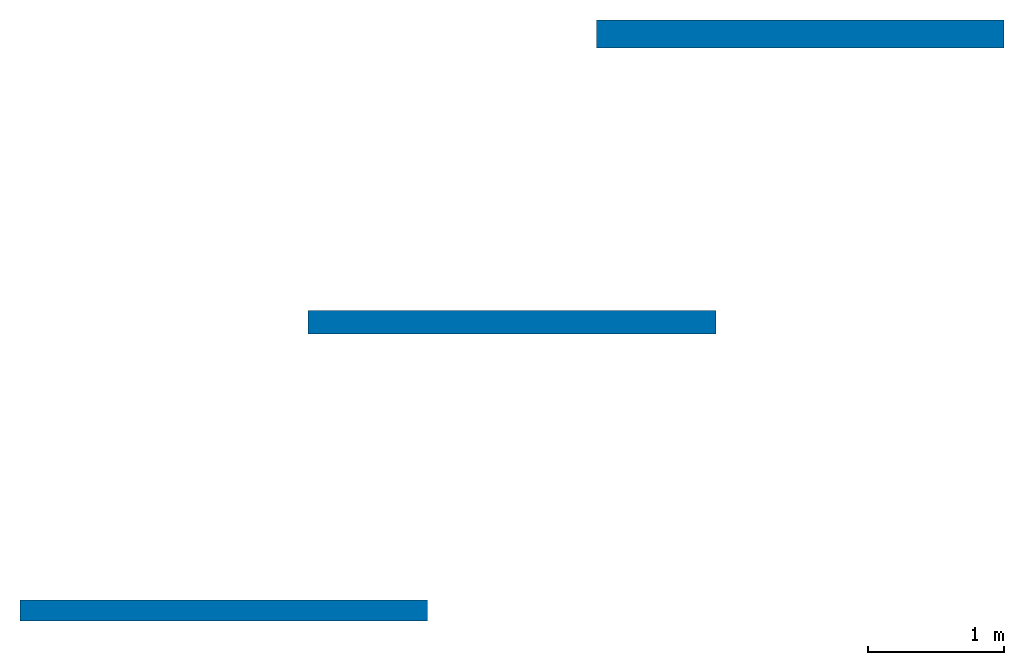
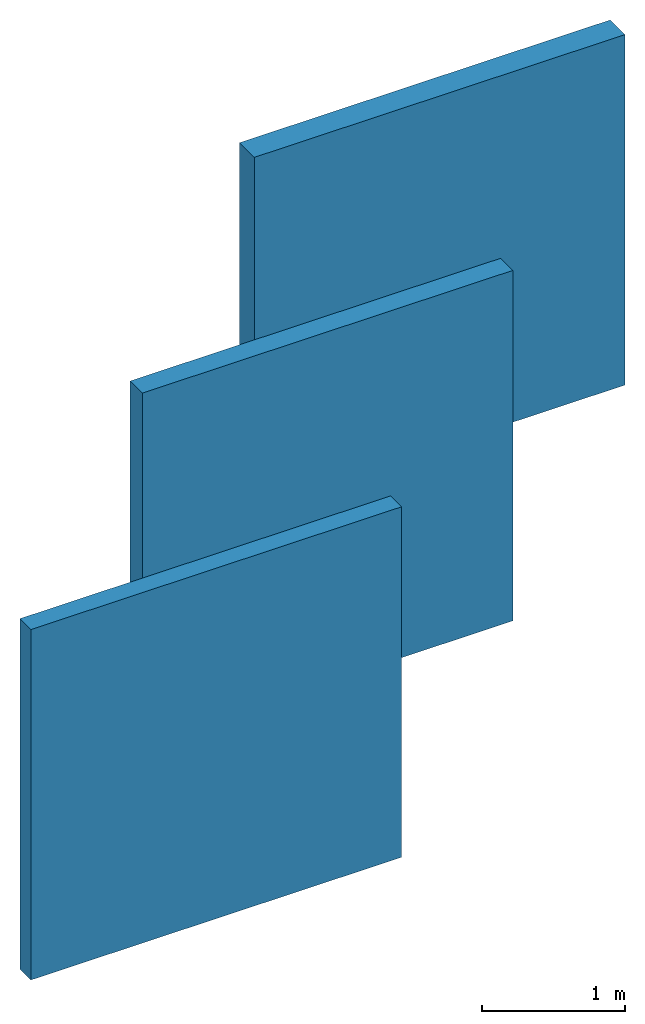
# One storey: 3 walls.
"""IFC2X3 building model written with IfcOpenShell, lengths in millimetres."""

from ifc_helpers import new_model, entity, si_unit, converted_unit, derived_unit, direction, frame, frame_2d, origin, place, context, subcontext, project, spatial, rectangle, extrude, material, layer, layer_set, layer_usage, type_object, element, save


model = new_model("IFC2X3")

# Units and contexts
model_context = context("Model", 3, precision=0.01, world=origin(), true_north=direction((6.12303176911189e-17, 1.0)))
context_of_model = context(None, 3, precision=0.01, world=origin(), true_north=direction((6.12303176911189e-17, 1.0)))
body_context = subcontext(model_context, "Body", "Model", "MODEL_VIEW")
ifc_project = project(units=[si_unit("LENGTHUNIT", "METRE", prefix="MILLI"), si_unit("AREAUNIT", "SQUARE_METRE"), si_unit("VOLUMEUNIT", "CUBIC_METRE"), converted_unit("PLANEANGLEUNIT", "DEGREE", entity("IfcRatioMeasure", 0.0174532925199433), si_unit("PLANEANGLEUNIT", "RADIAN"), dimensions=[0, 0, 0, 0, 0, 0, 0]), si_unit("MASSUNIT", "GRAM", prefix="KILO"), derived_unit("MASSDENSITYUNIT", [(si_unit("MASSUNIT", "GRAM", prefix="KILO"), 1), (si_unit("LENGTHUNIT", "METRE"), -3)]), si_unit("TIMEUNIT", "SECOND"), si_unit("FREQUENCYUNIT", "HERTZ"), si_unit("THERMODYNAMICTEMPERATUREUNIT", "DEGREE_CELSIUS"), derived_unit("THERMALTRANSMITTANCEUNIT", [(si_unit("MASSUNIT", "GRAM", prefix="KILO"), 1), (si_unit("THERMODYNAMICTEMPERATUREUNIT", "KELVIN"), -1), (si_unit("TIMEUNIT", "SECOND"), -3)]), derived_unit("VOLUMETRICFLOWRATEUNIT", [(si_unit("LENGTHUNIT", "METRE"), 3), (si_unit("TIMEUNIT", "SECOND"), -1)]), si_unit("ELECTRICCURRENTUNIT", "AMPERE"), si_unit("ELECTRICVOLTAGEUNIT", "VOLT"), si_unit("POWERUNIT", "WATT"), si_unit("FORCEUNIT", "NEWTON", prefix="KILO"), si_unit("ILLUMINANCEUNIT", "LUX"), si_unit("LUMINOUSFLUXUNIT", "LUMEN"), si_unit("LUMINOUSINTENSITYUNIT", "CANDELA"), derived_unit("USERDEFINED", [(si_unit("MASSUNIT", "GRAM", prefix="KILO"), -1), (si_unit("LENGTHUNIT", "METRE"), -2), (si_unit("TIMEUNIT", "SECOND"), 3), (si_unit("LUMINOUSFLUXUNIT", "LUMEN"), 1)]), derived_unit("LINEARVELOCITYUNIT", [(si_unit("LENGTHUNIT", "METRE"), 1), (si_unit("TIMEUNIT", "SECOND"), -1)]), si_unit("PRESSUREUNIT", "PASCAL"), derived_unit("USERDEFINED", [(si_unit("LENGTHUNIT", "METRE"), -2), (si_unit("MASSUNIT", "GRAM", prefix="KILO"), 1), (si_unit("TIMEUNIT", "SECOND"), -2)])], contexts=[model_context, context_of_model])

# Site, building, storey
site_placement = place(None, origin())
site = spatial("IfcSite", under=ifc_project, at=site_placement, Name="Default", CompositionType="ELEMENT")
building_placement = place(site_placement, origin())
building = spatial("IfcBuilding", under=site, at=building_placement, CompositionType="ELEMENT")
storey_placement = place(building_placement, origin())
storey = spatial("IfcBuildingStorey", under=building, at=storey_placement, Name="Begane grond", CompositionType="ELEMENT", Elevation=0.0)

# Walls
ifc_material = material(Name="Knauf Insulation_inblaaswol Supafil Cavity XL")
ifc_layer_1 = layer(ifc_material, 154.0)
ifc_layer_set_1 = layer_set([ifc_layer_1], Name="Basic Wall:NLRS_22_WA_Supafil Cavity XL_Spouwbreedte_154mm")
ifc_layer_usage_1 = layer_usage(ifc_layer_set_1, "AXIS2", "NEGATIVE", 77.0)
wall_type_1 = type_object("IfcWallType", Name="Basic Wall:NLRS_22_WA_Supafil Cavity XL_Spouwbreedte_154mm", PredefinedType="STANDARD", material=ifc_layer_set_1)
wall_1_placement = place(storey_placement, frame((1593.51620947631, 2170.82294264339, 0.0)))
element("IfcWallStandardCase", 1, at=wall_1_placement, inside=storey, type_object=wall_type_1, material=ifc_layer_usage_1, Name="Basic Wall:NLRS_22_WA_Supafil Cavity XL_Spouwbreedte_154mm:2470", ObjectType="Basic Wall:NLRS_22_WA_Supafil Cavity XL_Spouwbreedte_154mm", context=body_context, shape_type="SweptSolid", body=[
    extrude(rectangle(XDim=3000.0, YDim=154.0, at=frame_2d((1500.0, 0.0), x_axis=(-1.0, 0.0))), origin(), (0.0, 0.0, 1.0), 3000.0),
])
ifc_layer_2 = layer(ifc_material, 171.0)
ifc_layer_set_2 = layer_set([ifc_layer_2], Name="Basic Wall:NLRS_22_WA_Supafil Cavity XL_Spouwbreedte_171mm")
ifc_layer_usage_2 = layer_usage(ifc_layer_set_2, "AXIS2", "NEGATIVE", 85.5)
wall_type_2 = type_object("IfcWallType", Name="Basic Wall:NLRS_22_WA_Supafil Cavity XL_Spouwbreedte_171mm", PredefinedType="STANDARD", material=ifc_layer_set_2)
wall_2_placement = place(storey_placement, frame((3714.83655303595, 4292.14328620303, 0.0)))
element("IfcWallStandardCase", 2, at=wall_2_placement, inside=storey, type_object=wall_type_2, material=ifc_layer_usage_2, Name="Basic Wall:NLRS_22_WA_Supafil Cavity XL_Spouwbreedte_171mm:3578", ObjectType="Basic Wall:NLRS_22_WA_Supafil Cavity XL_Spouwbreedte_171mm", context=body_context, shape_type="SweptSolid", body=[
    extrude(rectangle(XDim=3000.0, YDim=171.0, at=frame_2d((1500.0, 0.0), x_axis=(-1.0, 0.0))), origin(), (0.0, 0.0, 1.0), 3000.0),
])
ifc_layer_3 = layer(ifc_material, 207.0)
ifc_layer_set_3 = layer_set([ifc_layer_3], Name="Basic Wall:NLRS_22_WA_Supafil Cavity XL_Spouwbreedte_207mm")
ifc_layer_usage_3 = layer_usage(ifc_layer_set_3, "AXIS2", "NEGATIVE", 103.5)
wall_type_3 = type_object("IfcWallType", Name="Basic Wall:NLRS_22_WA_Supafil Cavity XL_Spouwbreedte_207mm", PredefinedType="STANDARD", material=ifc_layer_set_3)
wall_3_placement = place(storey_placement, frame((5836.1568965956, 6413.46362976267, 0.0)))
element("IfcWallStandardCase", 3, at=wall_3_placement, inside=storey, type_object=wall_type_3, material=ifc_layer_usage_3, Name="Basic Wall:NLRS_22_WA_Supafil Cavity XL_Spouwbreedte_207mm:3605", ObjectType="Basic Wall:NLRS_22_WA_Supafil Cavity XL_Spouwbreedte_207mm", context=body_context, shape_type="SweptSolid", body=[
    extrude(rectangle(XDim=3000.0, YDim=207.000000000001, at=frame_2d((1500.0, 0.0), x_axis=(-1.0, 0.0))), origin(), (0.0, 0.0, 1.0), 3000.0),
])

save(model, "model.ifc")
